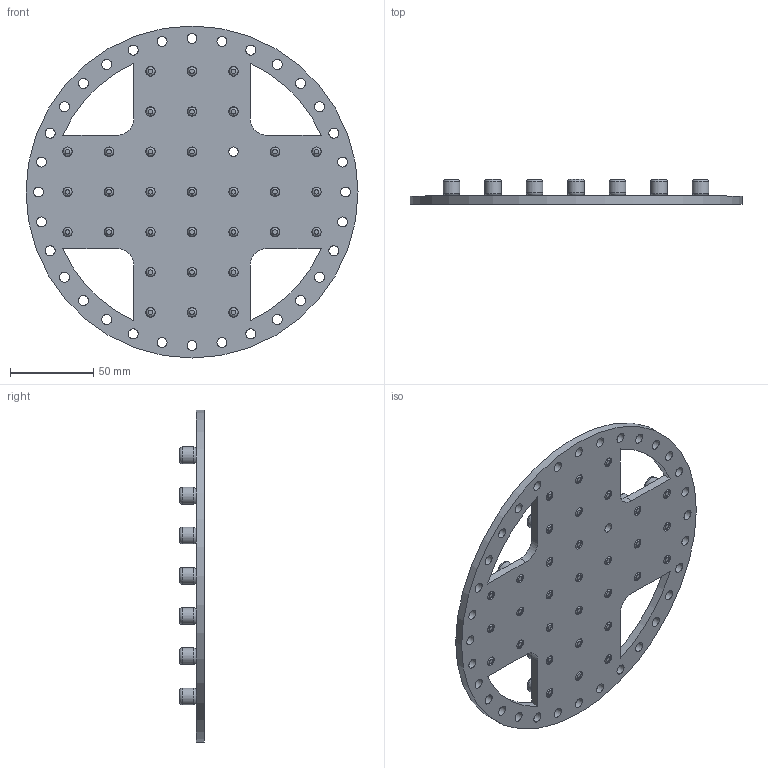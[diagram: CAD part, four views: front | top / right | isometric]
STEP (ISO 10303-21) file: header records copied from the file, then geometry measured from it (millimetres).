
FILE_DESCRIPTION(/* description */ (''),/* implementation_level */ '2;1');
FILE_NAME(/* name */ 'C:/Users/Psykk/3D Objects/Jeux/Solitaire/Pions/Solitaire2 v1.step',/* time_stamp */ '2021-12-15T07:34:35+01:00',/* author */ (''),/* organization */ (''),/* preprocessor_version */ 'ST-DEVELOPER v18.1',/* originating_system */ 'Autodesk Translation Framework v10.10.0.1391',/* authorisation */ '');
FILE_SCHEMA (('AUTOMOTIVE_DESIGN { 1 0 10303 214 3 1 1 }'));
Length unit declared in the file: millimetre
Products named in the file (1): Solitaire2
Bounding box: 200 x 15 x 200 mm (x, y, z)
Volume: 153429.9 mm3; surface area: 77992 mm2
Topology: 33 solids, 33 shells, 340 faces, 822 edges, 548 vertices
Faces by surface type: cylinder 138, torus 128, plane 74
Full cylindrical faces by diameter (mm): 5 x32, 5.696 x33, 6 x32, 10.087 x32, 200 x1
Entity records: 10657 total; most frequent: DIRECTION 2164, CARTESIAN_POINT 1711, ORIENTED_EDGE 1644, AXIS2_PLACEMENT_3D 1001, EDGE_CURVE 822, CIRCLE 660, VERTEX_POINT 548, EDGE_LOOP 478
